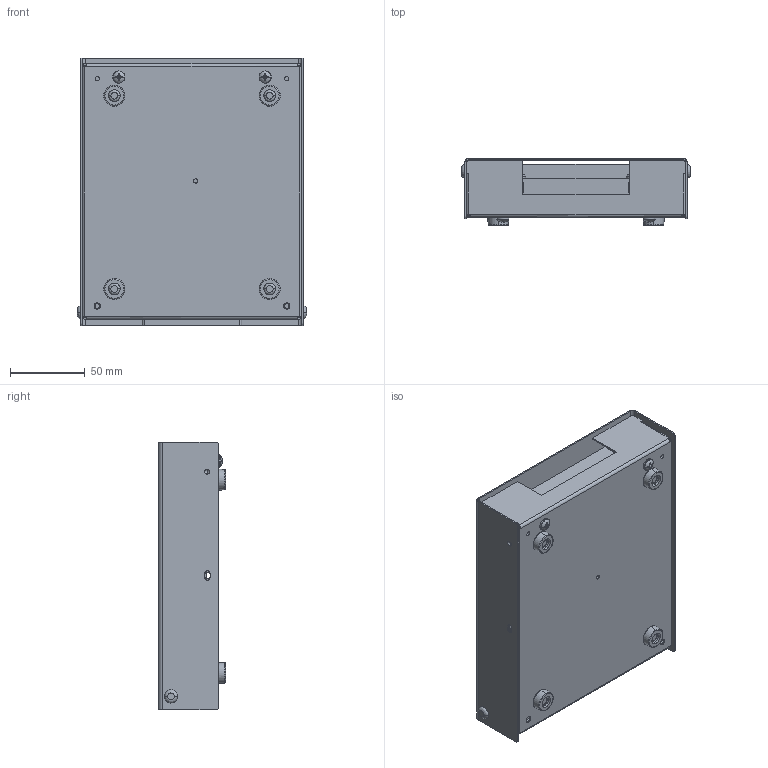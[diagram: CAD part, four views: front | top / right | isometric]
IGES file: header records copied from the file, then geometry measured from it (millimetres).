
Start section:  PTC IGES file: cu_scb_100.igs
Global section: file name: cu_scb_100.igs; native system: Pro/ENGINEER by Parametric Technology Corporation; preprocessor: 2006300; author: chrisj; organization: Unknown; date: 20080306.072226; units: inch
Bounding box: 153.57 x 44.96 x 179.49 mm (x, y, z)
Surface area: 213985.7 mm2 (no closed solid volume)
Topology: 0 solids, 0 shells, 789 faces, 3792 edges, 3650 vertices
Faces by surface type: bspline 469, revolution 320
